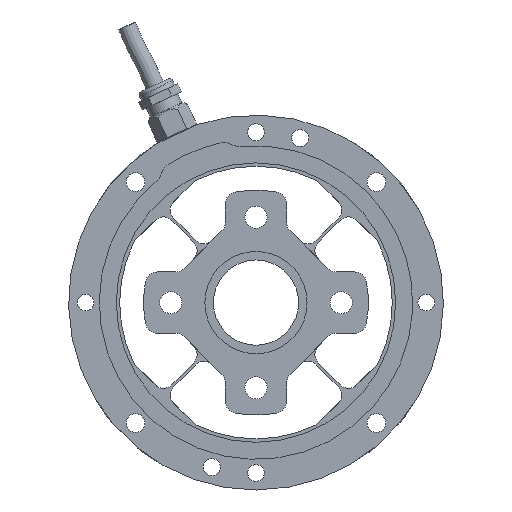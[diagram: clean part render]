
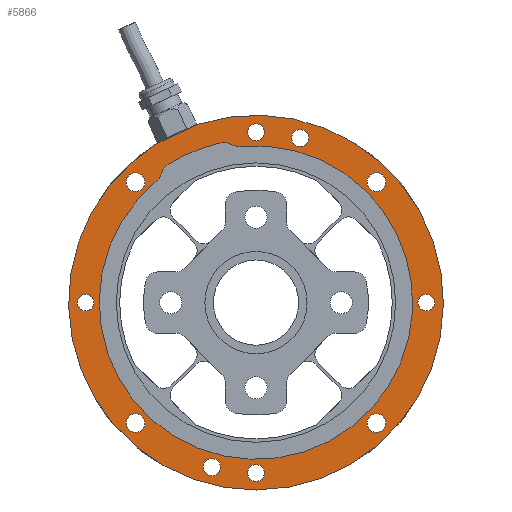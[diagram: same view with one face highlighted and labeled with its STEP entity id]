
A CAD part, front view. The second image highlights one B-rep face of the part: STEP entity #5866.
In plain terms, the highlighted planar face has unit normal (0, -1, 0).
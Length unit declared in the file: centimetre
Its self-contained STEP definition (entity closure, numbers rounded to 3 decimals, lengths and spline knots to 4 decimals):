
#864=VECTOR('',#6550,1.);
#1014=VECTOR('',#7122,1.);
#1017=VECTOR('',#7222,1.);
#1312=LINE('',#8354,#864);
#1462=LINE('',#9578,#1014);
#1465=LINE('',#9935,#1017);
#1761=CIRCLE('',#6035,0.5);
#1762=CIRCLE('',#6038,0.5);
#1763=CIRCLE('',#6040,4.6);
#1877=CIRCLE('',#6239,0.275);
#1879=CIRCLE('',#6242,0.275);
#1881=CIRCLE('',#6245,0.275);
#1883=CIRCLE('',#6248,0.275);
#1885=CIRCLE('',#6251,0.25);
#1887=CIRCLE('',#6254,0.25);
#1890=CIRCLE('',#6265,5.5);
#1896=CIRCLE('',#6277,0.2459);
#1899=CIRCLE('',#6284,0.2459);
#1902=CIRCLE('',#6291,0.2459);
#1905=CIRCLE('',#6298,0.2459);
#1910=CIRCLE('',#6314,0.5);
#1911=CIRCLE('',#6315,0.5);
#1912=CIRCLE('',#6316,4.8);
#1994=PLANE('',#6313);
#2147=VERTEX_POINT('',#8347);
#2148=VERTEX_POINT('',#8349);
#2149=VERTEX_POINT('',#8353);
#2150=VERTEX_POINT('',#8357);
#2151=VERTEX_POINT('',#8361);
#2351=VERTEX_POINT('',#9258);
#2353=VERTEX_POINT('',#9263);
#2355=VERTEX_POINT('',#9268);
#2357=VERTEX_POINT('',#9273);
#2359=VERTEX_POINT('',#9278);
#2361=VERTEX_POINT('',#9283);
#2373=VERTEX_POINT('',#9576);
#2375=VERTEX_POINT('',#9579);
#2390=VERTEX_POINT('',#9883);
#2393=VERTEX_POINT('',#9893);
#2396=VERTEX_POINT('',#9903);
#2399=VERTEX_POINT('',#9913);
#2404=VERTEX_POINT('',#9934);
#2405=VERTEX_POINT('',#9936);
#2406=VERTEX_POINT('',#9938);
#2707=EDGE_CURVE('',#2147,#2148,#1761,.T.);
#2710=EDGE_CURVE('',#2147,#2149,#1312,.T.);
#2712=EDGE_CURVE('',#2150,#2149,#1762,.T.);
#2714=EDGE_CURVE('',#2150,#2151,#1763,.T.);
#3005=EDGE_CURVE('',#2351,#2351,#1877,.T.);
#3007=EDGE_CURVE('',#2353,#2353,#1879,.T.);
#3009=EDGE_CURVE('',#2355,#2355,#1881,.T.);
#3011=EDGE_CURVE('',#2357,#2357,#1883,.T.);
#3013=EDGE_CURVE('',#2359,#2359,#1885,.T.);
#3015=EDGE_CURVE('',#2361,#2361,#1887,.T.);
#3030=EDGE_CURVE('',#2375,#2373,#1462,.T.);
#3034=EDGE_CURVE('',#2375,#2373,#1890,.T.);
#3048=EDGE_CURVE('',#2390,#2390,#1896,.T.);
#3051=EDGE_CURVE('',#2393,#2393,#1899,.T.);
#3054=EDGE_CURVE('',#2396,#2396,#1902,.T.);
#3057=EDGE_CURVE('',#2399,#2399,#1905,.T.);
#3064=EDGE_CURVE('',#2404,#2151,#1910,.T.);
#3065=EDGE_CURVE('',#2404,#2405,#1465,.T.);
#3066=EDGE_CURVE('',#2406,#2405,#1911,.T.);
#3067=EDGE_CURVE('',#2406,#2148,#1912,.T.);
#4103=ORIENTED_EDGE('',*,*,#3005,.T.);
#4104=ORIENTED_EDGE('',*,*,#3007,.T.);
#4105=ORIENTED_EDGE('',*,*,#3009,.T.);
#4106=ORIENTED_EDGE('',*,*,#3011,.T.);
#4107=ORIENTED_EDGE('',*,*,#3013,.T.);
#4108=ORIENTED_EDGE('',*,*,#3015,.T.);
#4109=ORIENTED_EDGE('',*,*,#3030,.T.);
#4110=ORIENTED_EDGE('',*,*,#3034,.F.);
#4111=ORIENTED_EDGE('',*,*,#3048,.T.);
#4112=ORIENTED_EDGE('',*,*,#3051,.T.);
#4113=ORIENTED_EDGE('',*,*,#3054,.T.);
#4114=ORIENTED_EDGE('',*,*,#3057,.T.);
#4115=ORIENTED_EDGE('',*,*,#2712,.F.);
#4116=ORIENTED_EDGE('',*,*,#2714,.T.);
#4117=ORIENTED_EDGE('',*,*,#3064,.F.);
#4118=ORIENTED_EDGE('',*,*,#3065,.T.);
#4119=ORIENTED_EDGE('',*,*,#3066,.F.);
#4120=ORIENTED_EDGE('',*,*,#3067,.T.);
#4121=ORIENTED_EDGE('',*,*,#2707,.F.);
#4122=ORIENTED_EDGE('',*,*,#2710,.T.);
#5066=EDGE_LOOP('',(#4103));
#5067=EDGE_LOOP('',(#4104));
#5068=EDGE_LOOP('',(#4105));
#5069=EDGE_LOOP('',(#4106));
#5070=EDGE_LOOP('',(#4107));
#5071=EDGE_LOOP('',(#4108));
#5072=EDGE_LOOP('',(#4109,#4110));
#5073=EDGE_LOOP('',(#4111));
#5074=EDGE_LOOP('',(#4112));
#5075=EDGE_LOOP('',(#4113));
#5076=EDGE_LOOP('',(#4114));
#5077=EDGE_LOOP('',(#4115,#4116,#4117,#4118,#4119,#4120,#4121,#4122));
#5505=FACE_BOUND('',#5066,.T.);
#5506=FACE_BOUND('',#5067,.T.);
#5507=FACE_BOUND('',#5068,.T.);
#5508=FACE_BOUND('',#5069,.T.);
#5509=FACE_BOUND('',#5070,.T.);
#5510=FACE_BOUND('',#5071,.T.);
#5511=FACE_BOUND('',#5072,.T.);
#5512=FACE_BOUND('',#5073,.T.);
#5513=FACE_BOUND('',#5074,.T.);
#5514=FACE_BOUND('',#5075,.T.);
#5515=FACE_BOUND('',#5076,.T.);
#5516=FACE_BOUND('',#5077,.T.);
#5866=ADVANCED_FACE('',(#5505,#5506,#5507,#5508,#5509,#5510,#5511,#5512,
#5513,#5514,#5515,#5516),#1994,.T.);
#6035=AXIS2_PLACEMENT_3D('',#8348,#6545,#6546);
#6038=AXIS2_PLACEMENT_3D('',#8358,#6554,#6555);
#6040=AXIS2_PLACEMENT_3D('',#8362,#6559,#6560);
#6239=AXIS2_PLACEMENT_3D('',#9257,#7074,#7075);
#6242=AXIS2_PLACEMENT_3D('',#9262,#7080,#7081);
#6245=AXIS2_PLACEMENT_3D('',#9267,#7086,#7087);
#6248=AXIS2_PLACEMENT_3D('',#9272,#7092,#7093);
#6251=AXIS2_PLACEMENT_3D('',#9277,#7098,#7099);
#6254=AXIS2_PLACEMENT_3D('',#9282,#7104,#7105);
#6265=AXIS2_PLACEMENT_3D('',#9585,#7129,#7130);
#6277=AXIS2_PLACEMENT_3D('',#9882,#7152,#7153);
#6284=AXIS2_PLACEMENT_3D('',#9892,#7165,#7166);
#6291=AXIS2_PLACEMENT_3D('',#9902,#7178,#7179);
#6298=AXIS2_PLACEMENT_3D('',#9912,#7191,#7192);
#6313=AXIS2_PLACEMENT_3D('',#9932,#7219,$);
#6314=AXIS2_PLACEMENT_3D('',#9933,#7220,#7221);
#6315=AXIS2_PLACEMENT_3D('',#9937,#7223,#7224);
#6316=AXIS2_PLACEMENT_3D('',#9939,#7225,#7226);
#6545=DIRECTION('',(0.,-1.,0.));
#6546=DIRECTION('',(0.064,0.,0.496));
#6550=DIRECTION('',(0.887,0.,-0.462));
#6554=DIRECTION('',(0.,1.,0.));
#6555=DIRECTION('',(-0.096,0.,-0.491));
#6559=DIRECTION('',(0.,1.,0.));
#6560=DIRECTION('',(4.6,0.,0.));
#7074=DIRECTION('',(0.,1.,0.));
#7075=DIRECTION('',(0.275,0.,0.));
#7080=DIRECTION('',(0.,1.,0.));
#7081=DIRECTION('',(0.275,0.,0.));
#7086=DIRECTION('',(0.,1.,0.));
#7087=DIRECTION('',(0.275,0.,0.));
#7092=DIRECTION('',(0.,1.,0.));
#7093=DIRECTION('',(0.275,0.,0.));
#7098=DIRECTION('',(0.,1.,0.));
#7099=DIRECTION('',(0.25,0.,0.));
#7104=DIRECTION('',(0.,1.,0.));
#7105=DIRECTION('',(0.25,0.,0.));
#7122=DIRECTION('',(-0.906,0.,-0.423));
#7129=DIRECTION('',(0.,1.,0.));
#7130=DIRECTION('',(5.5,0.,0.));
#7152=DIRECTION('',(0.,1.,0.));
#7153=DIRECTION('',(0.246,0.,0.));
#7165=DIRECTION('',(0.,1.,0.));
#7166=DIRECTION('',(0.246,0.,0.));
#7178=DIRECTION('',(0.,1.,0.));
#7179=DIRECTION('',(0.246,0.,0.));
#7191=DIRECTION('',(0.,1.,0.));
#7192=DIRECTION('',(0.246,0.,0.));
#7219=DIRECTION('',(0.,-1.,0.));
#7220=DIRECTION('',(0.,1.,0.));
#7221=DIRECTION('',(0.415,0.,-0.279));
#7222=DIRECTION('',(0.301,0.,0.954));
#7223=DIRECTION('',(0.,-1.,0.));
#7224=DIRECTION('',(-0.396,0.,0.305));
#7225=DIRECTION('',(0.,1.,0.));
#7226=DIRECTION('',(4.8,0.,0.));
#8347=CARTESIAN_POINT('',(-0.7154,-0.6,4.6381));
#8348=CARTESIAN_POINT('',(-0.9462,-0.6,4.1946));
#8349=CARTESIAN_POINT('',(-1.0563,-0.6,4.6823));
#8353=CARTESIAN_POINT('',(-0.7078,-0.6,4.6341));
#8354=CARTESIAN_POINT('',(0.5121,-0.6,3.9991));
#8357=CARTESIAN_POINT('',(-0.4301,-0.6,4.5798));
#8358=CARTESIAN_POINT('',(-0.4769,-0.6,5.0777));
#8361=CARTESIAN_POINT('',(-2.9343,-0.6,3.5426));
#8362=CARTESIAN_POINT('',(0.,-0.6,0.));
#9257=CARTESIAN_POINT('',(-3.5355,-0.6,3.5355));
#9258=CARTESIAN_POINT('',(-3.8105,-0.6,3.5355));
#9262=CARTESIAN_POINT('',(-3.5355,-0.6,-3.5355));
#9263=CARTESIAN_POINT('',(-3.8105,-0.6,-3.5355));
#9267=CARTESIAN_POINT('',(3.5355,-0.6,-3.5355));
#9268=CARTESIAN_POINT('',(3.2605,-0.6,-3.5355));
#9272=CARTESIAN_POINT('',(3.5355,-0.6,3.5355));
#9273=CARTESIAN_POINT('',(3.2605,-0.6,3.5355));
#9277=CARTESIAN_POINT('',(-1.2941,-0.6,-4.8296));
#9278=CARTESIAN_POINT('',(-1.5441,-0.6,-4.8296));
#9282=CARTESIAN_POINT('',(1.2941,-0.6,4.8296));
#9283=CARTESIAN_POINT('',(1.0441,-0.6,4.8296));
#9576=CARTESIAN_POINT('',(-2.9076,-0.6,4.6686));
#9578=CARTESIAN_POINT('',(-9.3854,-0.6,1.648));
#9579=CARTESIAN_POINT('',(-1.7074,-0.6,5.2283));
#9585=CARTESIAN_POINT('',(0.,-0.6,0.));
#9882=CARTESIAN_POINT('',(0.,-0.6,5.));
#9883=CARTESIAN_POINT('',(-0.2458,-0.6,5.));
#9892=CARTESIAN_POINT('',(-5.,-0.6,0.));
#9893=CARTESIAN_POINT('',(-5.2459,-0.6,0.));
#9902=CARTESIAN_POINT('',(0.,-0.6,-5.));
#9903=CARTESIAN_POINT('',(-0.2459,-0.6,-5.));
#9912=CARTESIAN_POINT('',(5.,-0.6,0.));
#9913=CARTESIAN_POINT('',(4.7542,-0.6,0.));
#9932=CARTESIAN_POINT('',(0.,-0.6,0.));
#9933=CARTESIAN_POINT('',(-3.2532,-0.6,3.9277));
#9934=CARTESIAN_POINT('',(-2.7764,-0.6,3.7773));
#9935=CARTESIAN_POINT('',(-3.1899,-0.6,2.4657));
#9936=CARTESIAN_POINT('',(-2.7738,-0.6,3.7855));
#9937=CARTESIAN_POINT('',(-2.2969,-0.6,3.6351));
#9938=CARTESIAN_POINT('',(-2.564,-0.6,4.0578));
#9939=CARTESIAN_POINT('',(0.,-0.6,0.));
